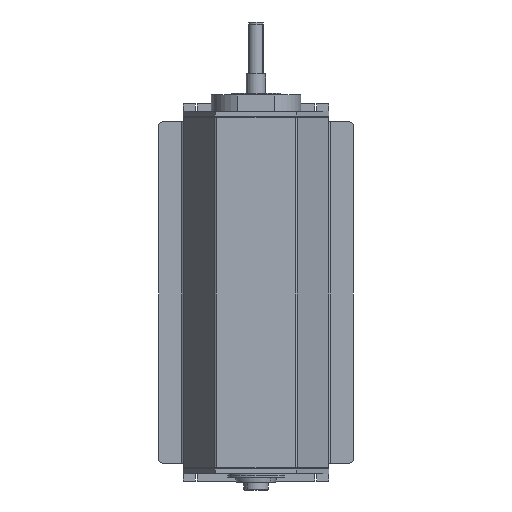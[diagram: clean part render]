
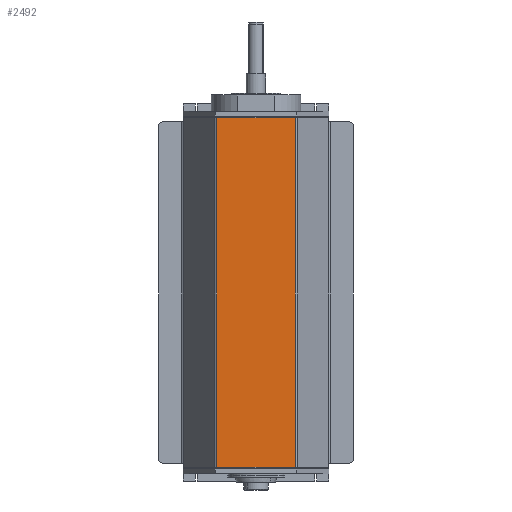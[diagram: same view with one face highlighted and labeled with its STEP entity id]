
A CAD part, front view. The second image highlights one B-rep face of the part: STEP entity #2492.
In plain terms, the highlighted planar face has unit normal (0, -1, 0).
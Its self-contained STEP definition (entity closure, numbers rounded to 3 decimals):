
#6 = EDGE_CURVE ( 'NONE', #15682, #9988, #3128, .T. ) ;
#1394 = CARTESIAN_POINT ( 'NONE',  ( -50., 0., 504.779 ) ) ;
#2492 = ADVANCED_FACE ( 'NONE', ( #15056 ), #6440, .F. ) ;
#3128 = LINE ( 'NONE', #19765, #3392 ) ;
#3392 = VECTOR ( 'NONE', #4521, 1000. ) ;
#3714 = ORIENTED_EDGE ( 'NONE', *, *, #6, .T. ) ;
#4521 = DIRECTION ( 'NONE',  ( -1., 0., 0. ) ) ;
#4933 = CARTESIAN_POINT ( 'NONE',  ( 48.268, 0., 504.779 ) ) ;
#5018 = CARTESIAN_POINT ( 'NONE',  ( -48.268, 0., 215.5 ) ) ;
#6192 = VECTOR ( 'NONE', #17162, 1000. ) ;
#6380 = DIRECTION ( 'NONE',  ( 0., 0., -1. ) ) ;
#6440 = PLANE ( 'NONE',  #15601 ) ;
#6641 = EDGE_LOOP ( 'NONE', ( #3714, #21441, #12008, #11284 ) ) ;
#7898 = DIRECTION ( 'NONE',  ( 0., 1., 0. ) ) ;
#8468 = CARTESIAN_POINT ( 'NONE',  ( -48.268, 0., -215.5 ) ) ;
#8695 = VERTEX_POINT ( 'NONE', #8468 ) ;
#9123 = VECTOR ( 'NONE', #14328, 1000. ) ;
#9988 = VERTEX_POINT ( 'NONE', #5018 ) ;
#10399 = CARTESIAN_POINT ( 'NONE',  ( 48.268, 0., -215.5 ) ) ;
#11179 = CARTESIAN_POINT ( 'NONE',  ( 48.268, 0., 215.5 ) ) ;
#11284 = ORIENTED_EDGE ( 'NONE', *, *, #20075, .F. ) ;
#11397 = EDGE_CURVE ( 'NONE', #8695, #15446, #15639, .T. ) ;
#12008 = ORIENTED_EDGE ( 'NONE', *, *, #11397, .T. ) ;
#14328 = DIRECTION ( 'NONE',  ( 1., 0., 0. ) ) ;
#15056 = FACE_OUTER_BOUND ( 'NONE', #6641, .T. ) ;
#15446 = VERTEX_POINT ( 'NONE', #10399 ) ;
#15601 = AXIS2_PLACEMENT_3D ( 'NONE', #1394, #7898, #19564 ) ;
#15609 = CARTESIAN_POINT ( 'NONE',  ( -48.268, 0., 504.779 ) ) ;
#15639 = LINE ( 'NONE', #19374, #9123 ) ;
#15682 = VERTEX_POINT ( 'NONE', #11179 ) ;
#17159 = VECTOR ( 'NONE', #6380, 1000. ) ;
#17162 = DIRECTION ( 'NONE',  ( 0., 0., -1. ) ) ;
#17973 = LINE ( 'NONE', #15609, #6192 ) ;
#19374 = CARTESIAN_POINT ( 'NONE',  ( -50., 0., -215.5 ) ) ;
#19564 = DIRECTION ( 'NONE',  ( -1., 0., 0. ) ) ;
#19765 = CARTESIAN_POINT ( 'NONE',  ( -50., 0., 215.5 ) ) ;
#20075 = EDGE_CURVE ( 'NONE', #15682, #15446, #21719, .T. ) ;
#20399 = EDGE_CURVE ( 'NONE', #9988, #8695, #17973, .T. ) ;
#21441 = ORIENTED_EDGE ( 'NONE', *, *, #20399, .T. ) ;
#21719 = LINE ( 'NONE', #4933, #17159 ) ;
